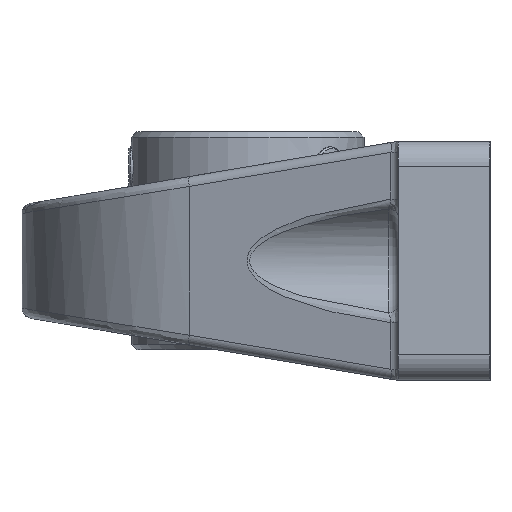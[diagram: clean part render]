
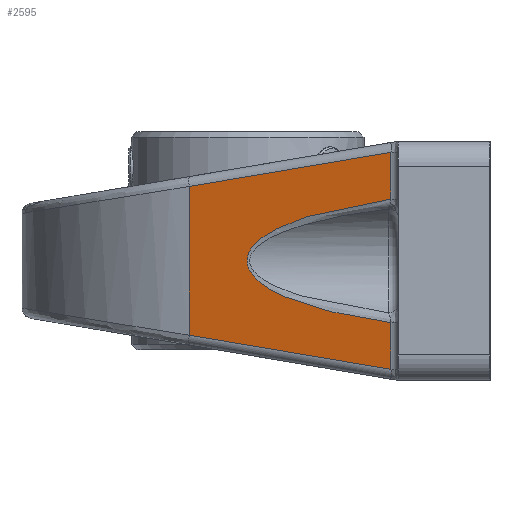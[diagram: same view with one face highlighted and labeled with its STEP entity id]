
A CAD part, left-side view. The second image highlights one B-rep face of the part: STEP entity #2595.
In plain terms, the highlighted planar face has unit normal (-0.966, 0.259, 0).
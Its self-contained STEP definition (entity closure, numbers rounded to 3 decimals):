
#166=PLANE('',#2955);
#371=FACE_OUTER_BOUND('',#516,.T.);
#516=EDGE_LOOP('',(#1866,#1867,#1868,#1869,#1870,#1871));
#672=ELLIPSE('',#2951,52.16,13.5);
#905=LINE('',#4509,#1005);
#907=LINE('',#4637,#1007);
#908=LINE('',#4692,#1008);
#910=LINE('',#4698,#1010);
#911=LINE('',#4699,#1011);
#1005=VECTOR('',#3397,10.);
#1007=VECTOR('',#3421,10.);
#1008=VECTOR('',#3428,10.);
#1010=VECTOR('',#3434,10.);
#1011=VECTOR('',#3435,10.);
#1125=VERTEX_POINT('',#4488);
#1129=VERTEX_POINT('',#4505);
#1134=VERTEX_POINT('',#4575);
#1139=VERTEX_POINT('',#4630);
#1141=VERTEX_POINT('',#4691);
#1143=VERTEX_POINT('',#4697);
#1418=EDGE_CURVE('',#1125,#1129,#905,.T.);
#1433=EDGE_CURVE('',#1139,#1134,#907,.T.);
#1434=EDGE_CURVE('',#1134,#1125,#672,.T.);
#1436=EDGE_CURVE('',#1129,#1141,#908,.T.);
#1439=EDGE_CURVE('',#1143,#1139,#910,.T.);
#1440=EDGE_CURVE('',#1141,#1143,#911,.T.);
#1866=ORIENTED_EDGE('',*,*,#1418,.F.);
#1867=ORIENTED_EDGE('',*,*,#1434,.F.);
#1868=ORIENTED_EDGE('',*,*,#1433,.F.);
#1869=ORIENTED_EDGE('',*,*,#1439,.F.);
#1870=ORIENTED_EDGE('',*,*,#1440,.F.);
#1871=ORIENTED_EDGE('',*,*,#1436,.F.);
#2595=ADVANCED_FACE('',(#371),#166,.T.);
#2951=AXIS2_PLACEMENT_3D('',#4688,#3422,#3423);
#2955=AXIS2_PLACEMENT_3D('',#4696,#3432,#3433);
#3397=DIRECTION('',(0.,0.,-1.));
#3421=DIRECTION('',(0.,0.,-1.));
#3422=DIRECTION('center_axis',(-0.966,0.259,0.));
#3423=DIRECTION('ref_axis',(0.259,0.966,0.));
#3428=DIRECTION('',(0.255,0.953,0.161));
#3432=DIRECTION('center_axis',(-0.966,0.259,0.));
#3433=DIRECTION('ref_axis',(0.259,0.966,0.));
#3434=DIRECTION('',(-0.255,-0.953,0.161));
#3435=DIRECTION('',(0.,0.,1.));
#4488=CARTESIAN_POINT('',(-53.5,19.482,-12.127));
#4505=CARTESIAN_POINT('',(-53.5,19.482,-21.309));
#4509=CARTESIAN_POINT('',(-53.5,19.482,0.));
#4575=CARTESIAN_POINT('',(-53.5,19.482,12.127));
#4630=CARTESIAN_POINT('',(-53.5,19.482,21.309));
#4637=CARTESIAN_POINT('',(-53.5,19.482,0.));
#4688=CARTESIAN_POINT('Origin',(-59.432,-2.654,0.));
#4691=CARTESIAN_POINT('',(-42.887,59.092,-14.618));
#4692=CARTESIAN_POINT('',(-42.468,60.654,-14.354));
#4696=CARTESIAN_POINT('Origin',(-53.898,18.,0.));
#4697=CARTESIAN_POINT('',(-42.887,59.092,14.618));
#4698=CARTESIAN_POINT('',(-51.736,26.068,20.196));
#4699=CARTESIAN_POINT('',(-42.887,59.092,0.));
